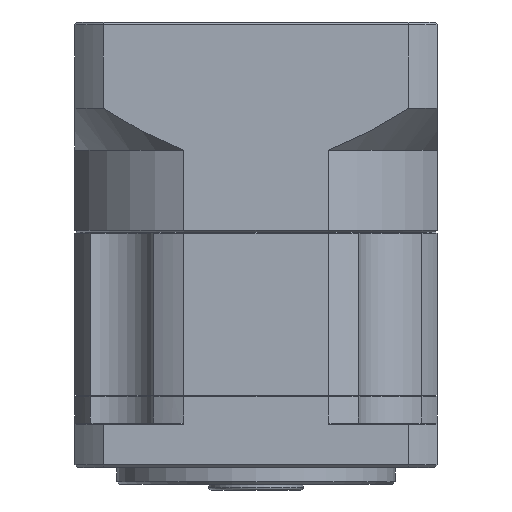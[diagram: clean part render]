
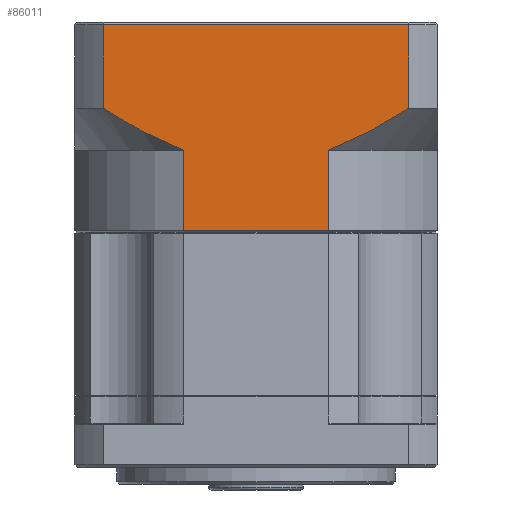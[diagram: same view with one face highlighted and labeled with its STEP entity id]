
A CAD part, front view. The second image highlights one B-rep face of the part: STEP entity #86011.
In plain terms, the highlighted planar face has unit normal (0, -1, 0).
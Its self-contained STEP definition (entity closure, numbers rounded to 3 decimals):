
#271 = FACE_OUTER_BOUND ( 'NONE', #37922, .T. ) ;
#2665 = CARTESIAN_POINT ( 'NONE',  ( 45.694, -27.975, 61.746 ) ) ;
#3110 = LINE ( 'NONE', #59373, #33415 ) ;
#4601 = CARTESIAN_POINT ( 'NONE',  ( 5.047, -27.975, 66.841 ) ) ;
#6939 = VECTOR ( 'NONE', #71091, 1000. ) ;
#7231 = B_SPLINE_CURVE_WITH_KNOTS ( 'NONE', 3,
 ( #87728, #72192, #64371, #41306, #95499, #49070, #2665, #56875 ),
 .UNSPECIFIED., .F., .F.,
 ( 4, 2, 2, 4 ),
 ( 0.059, 0.063, 0.067, 0.075 ),
 .UNSPECIFIED. ) ;
#8267 = VECTOR ( 'NONE', #39756, 1000. ) ;
#9648 = ORIENTED_EDGE ( 'NONE', *, *, #90109, .F. ) ;
#12165 = EDGE_CURVE ( 'NONE', #80472, #83608, #20264, .T. ) ;
#14117 = ORIENTED_EDGE ( 'NONE', *, *, #27591, .F. ) ;
#16583 = EDGE_CURVE ( 'NONE', #31814, #47660, #7231, .T. ) ;
#20264 = LINE ( 'NONE', #58816, #59088 ) ;
#21034 = EDGE_CURVE ( 'NONE', #47660, #44464, #86991, .T. ) ;
#23557 = VERTEX_POINT ( 'NONE', #98753 ) ;
#24584 = CARTESIAN_POINT ( 'NONE',  ( 43.155, -27.975, 60.803 ) ) ;
#24830 = ORIENTED_EDGE ( 'NONE', *, *, #16583, .F. ) ;
#27567 = VECTOR ( 'NONE', #93886, 1000. ) ;
#27591 = EDGE_CURVE ( 'NONE', #37535, #68271, #61356, .T. ) ;
#27621 = CARTESIAN_POINT ( 'NONE',  ( 15.893, -27.975, 61.294 ) ) ;
#30269 = ORIENTED_EDGE ( 'NONE', *, *, #83747, .F. ) ;
#31814 = VERTEX_POINT ( 'NONE', #74256 ) ;
#33415 = VECTOR ( 'NONE', #51576, 1000. ) ;
#35401 = CARTESIAN_POINT ( 'NONE',  ( 14.632, -27.975, 61.82 ) ) ;
#36937 = LINE ( 'NONE', #39447, #57540 ) ;
#37535 = VERTEX_POINT ( 'NONE', #69777 ) ;
#37570 = DIRECTION ( 'NONE',  ( 0., 1., 0. ) ) ;
#37922 = EDGE_LOOP ( 'NONE', ( #9648, #48923, #77068, #14117, #30269, #52172, #80089, #24830 ) ) ;
#39447 = CARTESIAN_POINT ( 'NONE',  ( 62.664, -27.975, 46.392 ) ) ;
#39756 = DIRECTION ( 'NONE',  ( 0., 0., 1. ) ) ;
#41306 = CARTESIAN_POINT ( 'NONE',  ( 52.925, -27.975, 65.469 ) ) ;
#43247 = CARTESIAN_POINT ( 'NONE',  ( 12.155, -27.975, 62.943 ) ) ;
#44464 = VERTEX_POINT ( 'NONE', #77681 ) ;
#46574 = DIRECTION ( 'NONE',  ( 1., 0., 0. ) ) ;
#47660 = VERTEX_POINT ( 'NONE', #90632 ) ;
#48923 = ORIENTED_EDGE ( 'NONE', *, *, #12165, .T. ) ;
#49070 = CARTESIAN_POINT ( 'NONE',  ( 48.145, -27.975, 62.89 ) ) ;
#51003 = CARTESIAN_POINT ( 'NONE',  ( 7.362, -27.975, 65.453 ) ) ;
#51576 = DIRECTION ( 'NONE',  ( 0., 0., 1. ) ) ;
#52172 = ORIENTED_EDGE ( 'NONE', *, *, #90984, .T. ) ;
#56875 = CARTESIAN_POINT ( 'NONE',  ( 43.155, -27.975, 60.803 ) ) ;
#57540 = VECTOR ( 'NONE', #46574, 1000. ) ;
#58182 = CARTESIAN_POINT ( 'NONE',  ( 57.55, -27.975, 83.303 ) ) ;
#58806 = CARTESIAN_POINT ( 'NONE',  ( 2.778, -27.975, 68.303 ) ) ;
#58816 = CARTESIAN_POINT ( 'NONE',  ( 2.778, -27.975, 83.303 ) ) ;
#59088 = VECTOR ( 'NONE', #66668, 1000. ) ;
#59373 = CARTESIAN_POINT ( 'NONE',  ( 2.778, -27.975, 65.803 ) ) ;
#61028 = EDGE_CURVE ( 'NONE', #68271, #83608, #3110, .T. ) ;
#61356 = B_SPLINE_CURVE_WITH_KNOTS ( 'NONE', 3,
 ( #73764, #81901, #27621, #35401, #89627, #43247, #97403, #51003, #4601, #58806 ),
 .UNSPECIFIED., .F., .F.,
 ( 4, 2, 2, 2, 4 ),
 ( 0.101, 0.104, 0.106, 0.11, 0.118 ),
 .UNSPECIFIED. ) ;
#61490 = CARTESIAN_POINT ( 'NONE',  ( 2.778, -27.975, 83.303 ) ) ;
#64371 = CARTESIAN_POINT ( 'NONE',  ( 55.26, -27.975, 66.854 ) ) ;
#66430 = LINE ( 'NONE', #78326, #27567 ) ;
#66668 = DIRECTION ( 'NONE',  ( -1., 0., 0. ) ) ;
#67716 = LINE ( 'NONE', #86517, #8267 ) ;
#68271 = VERTEX_POINT ( 'NONE', #89773 ) ;
#69777 = CARTESIAN_POINT ( 'NONE',  ( 17.174, -27.975, 60.803 ) ) ;
#71091 = DIRECTION ( 'NONE',  ( 0., 0., -1. ) ) ;
#72192 = CARTESIAN_POINT ( 'NONE',  ( 56.412, -27.975, 67.57 ) ) ;
#73764 = CARTESIAN_POINT ( 'NONE',  ( 17.174, -27.975, 60.803 ) ) ;
#74256 = CARTESIAN_POINT ( 'NONE',  ( 57.55, -27.975, 68.303 ) ) ;
#77068 = ORIENTED_EDGE ( 'NONE', *, *, #61028, .F. ) ;
#77681 = CARTESIAN_POINT ( 'NONE',  ( 43.155, -27.975, 46.392 ) ) ;
#78326 = CARTESIAN_POINT ( 'NONE',  ( 57.55, -27.975, 65.803 ) ) ;
#80089 = ORIENTED_EDGE ( 'NONE', *, *, #21034, .F. ) ;
#80472 = VERTEX_POINT ( 'NONE', #58182 ) ;
#81901 = CARTESIAN_POINT ( 'NONE',  ( 16.531, -27.975, 61.042 ) ) ;
#83608 = VERTEX_POINT ( 'NONE', #61490 ) ;
#83699 = PLANE ( 'NONE',  #90191 ) ;
#83747 = EDGE_CURVE ( 'NONE', #23557, #37535, #67716, .T. ) ;
#84045 = CARTESIAN_POINT ( 'NONE',  ( 62.664, -27.975, 83.803 ) ) ;
#86011 = ADVANCED_FACE ( 'NONE', ( #271 ), #83699, .F. ) ;
#86517 = CARTESIAN_POINT ( 'NONE',  ( 17.174, -27.975, 60.803 ) ) ;
#86991 = LINE ( 'NONE', #24584, #6939 ) ;
#87728 = CARTESIAN_POINT ( 'NONE',  ( 57.55, -27.975, 68.303 ) ) ;
#89627 = CARTESIAN_POINT ( 'NONE',  ( 14.008, -27.975, 62.093 ) ) ;
#89773 = CARTESIAN_POINT ( 'NONE',  ( 2.778, -27.975, 68.303 ) ) ;
#90109 = EDGE_CURVE ( 'NONE', #80472, #31814, #66430, .T. ) ;
#90191 = AXIS2_PLACEMENT_3D ( 'NONE', #84045, #37570, #91800 ) ;
#90632 = CARTESIAN_POINT ( 'NONE',  ( 43.155, -27.975, 60.803 ) ) ;
#90984 = EDGE_CURVE ( 'NONE', #23557, #44464, #36937, .T. ) ;
#91800 = DIRECTION ( 'NONE',  ( -1., 0., 0. ) ) ;
#93886 = DIRECTION ( 'NONE',  ( 0., 0., -1. ) ) ;
#95499 = CARTESIAN_POINT ( 'NONE',  ( 51.739, -27.975, 64.799 ) ) ;
#97403 = CARTESIAN_POINT ( 'NONE',  ( 10.943, -27.975, 63.548 ) ) ;
#98753 = CARTESIAN_POINT ( 'NONE',  ( 17.174, -27.975, 46.392 ) ) ;
